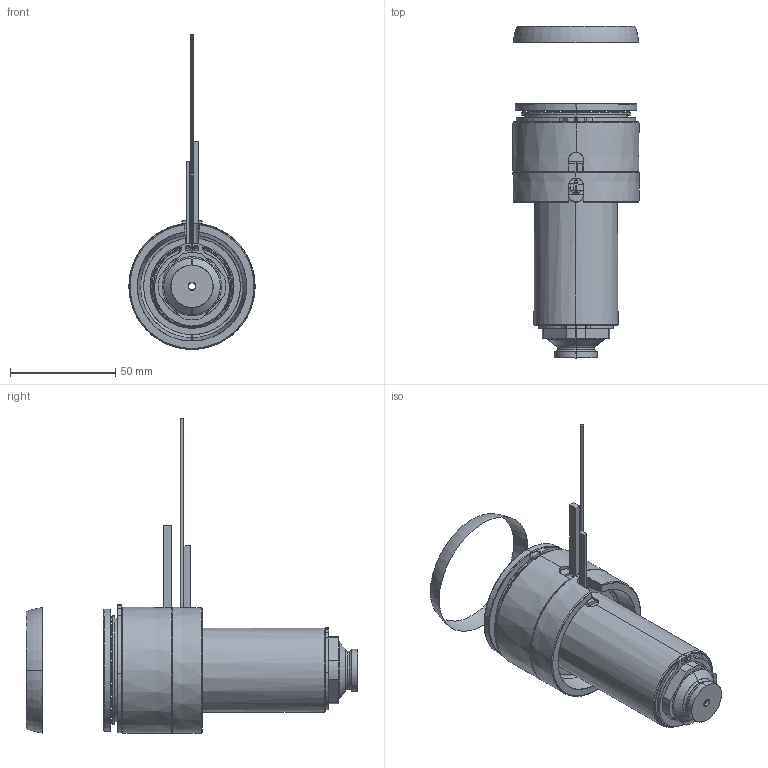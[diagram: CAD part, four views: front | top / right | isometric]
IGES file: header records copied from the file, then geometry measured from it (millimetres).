
Start section: SolidWorks IGES file using analytic representation for surfaces
Global section: file name: C:\Documents and Settings\ws-20\Desktop\TEM\UGER6603-S-A-1 [Øb-3.3 P-0 ØC-15].IGS; native system: SolidWorks 2012; preprocessor: SolidWorks 2012; author: ws-20; date: 120417.115744; units: millimetre
Bounding box: 60 x 157.77 x 149.65 mm (x, y, z)
Surface area: 67818.4 mm2 (no closed solid volume)
Topology: 0 solids, 0 shells, 168 faces, 3366 edges, 3366 vertices
Faces by surface type: revolution 102, bspline 66
